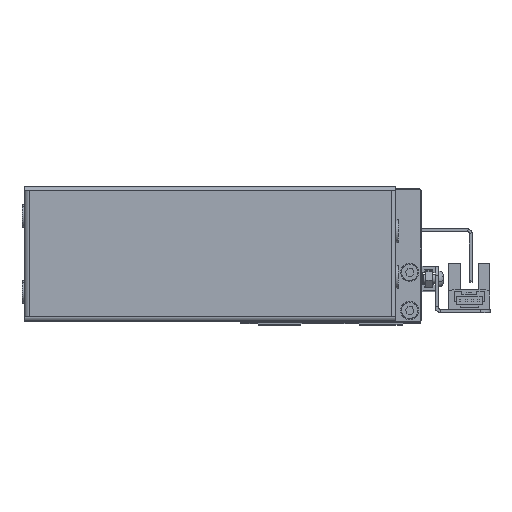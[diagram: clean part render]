
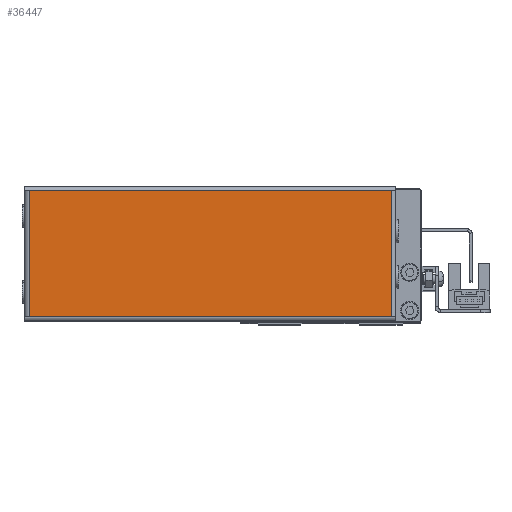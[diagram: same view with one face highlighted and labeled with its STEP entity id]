
A CAD part, top view. The second image highlights one B-rep face of the part: STEP entity #36447.
In plain terms, the highlighted planar face has unit normal (0, 0, 1) as drawn and (0, 0, -1) by its records, which use the part's own axes.
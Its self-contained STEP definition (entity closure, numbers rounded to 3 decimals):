
#1106 = EDGE_CURVE ( 'NONE', #50229, #30542, #33597, .T. ) ;
#1906 = EDGE_CURVE ( 'NONE', #47468, #50229, #45095, .T. ) ;
#3803 = ORIENTED_EDGE ( 'NONE', *, *, #1906, .T. ) ;
#4387 = LINE ( 'NONE', #43157, #53857 ) ;
#7765 = AXIS2_PLACEMENT_3D ( 'NONE', #60113, #55856, #37129 ) ;
#7885 = LINE ( 'NONE', #53979, #40522 ) ;
#9493 = EDGE_CURVE ( 'NONE', #20310, #47468, #4387, .T. ) ;
#9986 = CARTESIAN_POINT ( 'NONE',  ( 120.5, 1.3, -1. ) ) ;
#14846 = ORIENTED_EDGE ( 'NONE', *, *, #9493, .T. ) ;
#15807 = CARTESIAN_POINT ( 'NONE',  ( 1.5, 1.3, -1. ) ) ;
#17439 = DIRECTION ( 'NONE',  ( 0., 1., 0. ) ) ;
#19732 = VECTOR ( 'NONE', #37121, 1000. ) ;
#20310 = VERTEX_POINT ( 'NONE', #9986 ) ;
#21023 = EDGE_CURVE ( 'NONE', #30542, #20310, #7885, .T. ) ;
#23254 = FACE_OUTER_BOUND ( 'NONE', #26652, .T. ) ;
#24818 = CARTESIAN_POINT ( 'NONE',  ( 120.5, 42.7, -1. ) ) ;
#26355 = DIRECTION ( 'NONE',  ( 0., -1., 0. ) ) ;
#26652 = EDGE_LOOP ( 'NONE', ( #34574, #52763, #14846, #3803 ) ) ;
#27816 = CARTESIAN_POINT ( 'NONE',  ( 0., 42.7, -1. ) ) ;
#27828 = PLANE ( 'NONE',  #7765 ) ;
#30542 = VERTEX_POINT ( 'NONE', #24818 ) ;
#33597 = LINE ( 'NONE', #27816, #19732 ) ;
#34574 = ORIENTED_EDGE ( 'NONE', *, *, #1106, .T. ) ;
#36447 = ADVANCED_FACE ( 'NONE', ( #23254 ), #27828, .T. ) ;
#37121 = DIRECTION ( 'NONE',  ( 1., 0., 0. ) ) ;
#37129 = DIRECTION ( 'NONE',  ( -1., 0., 0. ) ) ;
#40522 = VECTOR ( 'NONE', #26355, 1000. ) ;
#40722 = VECTOR ( 'NONE', #17439, 1000. ) ;
#42827 = CARTESIAN_POINT ( 'NONE',  ( 1.5, 42.7, -1. ) ) ;
#43157 = CARTESIAN_POINT ( 'NONE',  ( 122., 1.3, -1. ) ) ;
#45095 = LINE ( 'NONE', #15807, #40722 ) ;
#47468 = VERTEX_POINT ( 'NONE', #55603 ) ;
#50229 = VERTEX_POINT ( 'NONE', #42827 ) ;
#52763 = ORIENTED_EDGE ( 'NONE', *, *, #21023, .T. ) ;
#53857 = VECTOR ( 'NONE', #57014, 1000. ) ;
#53979 = CARTESIAN_POINT ( 'NONE',  ( 120.5, 42.7, -1. ) ) ;
#55603 = CARTESIAN_POINT ( 'NONE',  ( 1.5, 1.3, -1. ) ) ;
#55856 = DIRECTION ( 'NONE',  ( 0., 0., -1. ) ) ;
#57014 = DIRECTION ( 'NONE',  ( -1., 0., 0. ) ) ;
#60113 = CARTESIAN_POINT ( 'NONE',  ( 0., 0., -1. ) ) ;
